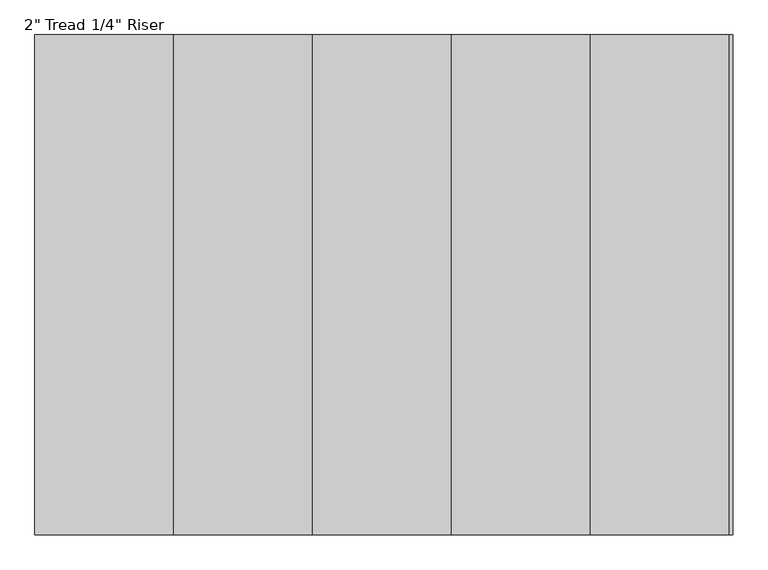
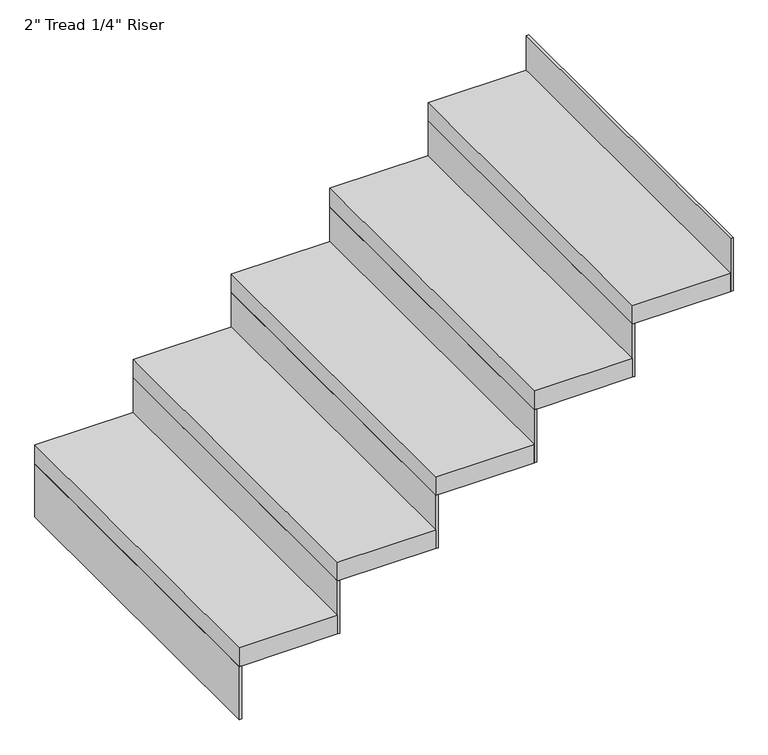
"""IFC4 building model written with IfcOpenShell, lengths in millimetres: stair flight geometry."""

import ifcopenshell
import ifcopenshell.guid

model = None  # the IFC model being written
_history = None  # IfcOwnerHistory: only IFC2X3 demands one
_inside = {}  # id of a spatial element -> (the spatial element, [elements in it])
_under = {}  # id of a project, library or spatial element -> (it, [spatial elements below it])
_declared = {}  # id of a project -> (the project, [libraries it declares])
_typed = {}  # id of a type object -> (the type object, [elements of that type])
_made_of = {}  # id of a material, layer set ... -> (it, [elements and type objects made of it])


def new_model(schema):
    """Start an empty IFC model of exactly this schema.

    Asked for "IFC4X3", IfcOpenShell would pick the latest addendum, in which some entities
    have other attributes; the version numbers below select the first issue.
    IFC2X3 requires an IfcOwnerHistory on every rooted entity: one is made here for all.
    """
    global model, _history
    if schema == "IFC4X3":
        model = ifcopenshell.file(schema_version=(4, 3, 0, 0))
    else:
        model = ifcopenshell.file(schema=schema)
    _inside.clear()
    _under.clear()
    _declared.clear()
    _typed.clear()
    _made_of.clear()
    _history = None
    if model.schema == "IFC2X3":
        org = make("IfcOrganization", Name="unknown")
        user = make(
            "IfcPersonAndOrganization",
            ThePerson=make("IfcPerson", FamilyName="unknown"),
            TheOrganization=org,
        )
        app = make(
            "IfcApplication",
            ApplicationDeveloper=org,
            Version="unknown",
            ApplicationFullName="unknown",
            ApplicationIdentifier="unknown",
        )
        _history = make(
            "IfcOwnerHistory",
            OwningUser=user,
            OwningApplication=app,
            ChangeAction="ADDED",
            CreationDate=0,
        )
    return model


def make(cls, **values):
    """One entity of the class cls with the attributes given. An attribute that is None is left unset."""
    return model.create_entity(
        cls, **{name: value for name, value in values.items() if value is not None}
    )


def rooted(cls, **values):
    """An entity with a GlobalId (a new one), such as an element, a storey or a relation."""
    return make(cls, GlobalId=ifcopenshell.guid.new(), OwnerHistory=_history, **values)


def si_unit(unit_type, name, prefix=None):
    """IfcSIUnit, for example si_unit("LENGTHUNIT", "METRE", prefix="MILLI")."""
    return make("IfcSIUnit", UnitType=unit_type, Prefix=prefix, Name=name)


def assignment(units):
    """IfcUnitAssignment: the units of a project."""
    return None if units is None else make("IfcUnitAssignment", Units=units)


def point(xyz):
    """IfcCartesianPoint."""
    return None if xyz is None else make("IfcCartesianPoint", Coordinates=xyz)


def direction(xyz):
    """IfcDirection."""
    return None if xyz is None else make("IfcDirection", DirectionRatios=xyz)


def frame(location, z_axis=None, x_axis=None):
    """IfcAxis2Placement3D, a coordinate frame: its origin and axes. An axis left out is left unset."""
    return make(
        "IfcAxis2Placement3D",
        Location=point(location),
        Axis=direction(z_axis),
        RefDirection=direction(x_axis),
    )


def origin():
    """The frame at (0, 0, 0) with its axes left unset."""
    return frame((0.0, 0.0, 0.0))


def place(relative_to, where):
    """IfcLocalPlacement: puts the frame where relative to a parent placement (None: the world)."""
    return make(
        "IfcLocalPlacement", PlacementRelTo=relative_to, RelativePlacement=where
    )


def context(
    kind, dimensions, precision=None, world=None, true_north=None, identifier=None
):
    """IfcGeometricRepresentationContext, for example the 3D "Model" context."""
    return make(
        "IfcGeometricRepresentationContext",
        ContextIdentifier=identifier,
        ContextType=kind,
        CoordinateSpaceDimension=dimensions,
        Precision=precision,
        WorldCoordinateSystem=world,
        TrueNorth=true_north,
    )


def project(units=None, contexts=None):
    """IfcProject with its units and contexts."""
    return rooted(
        "IfcProject",
        Name="project",
        RepresentationContexts=contexts,
        UnitsInContext=assignment(units),
    )


def spatial(cls, under=None, at=None, **own):
    """A site, building, storey or space (cls), placed at a placement, below another one or the project."""
    s = rooted(cls, ObjectPlacement=at, **own)
    if under is not None:
        _under.setdefault(under.id(), (under, []))[1].append(s)
    return s


def polyline(points):
    """IfcPolyline through the points."""
    return make("IfcPolyline", Points=[point(p) for p in points])


def outline(outer, holes=None, kind="AREA"):
    """IfcArbitraryClosedProfileDef: a profile drawn as a closed curve; with holes, ...WithVoids."""
    if holes is None:
        return make("IfcArbitraryClosedProfileDef", ProfileType=kind, OuterCurve=outer)
    return make(
        "IfcArbitraryProfileDefWithVoids",
        ProfileType=kind,
        OuterCurve=outer,
        InnerCurves=holes,
    )


def extrude(swept, where, along, depth):
    """IfcExtrudedAreaSolid: the profile swept, set in the frame where, extruded along a direction by depth."""
    return make(
        "IfcExtrudedAreaSolid",
        SweptArea=swept,
        Position=where,
        ExtrudedDirection=direction(along),
        Depth=depth,
    )


def shape(context_of_items, identifier, shape_type, items):
    """IfcShapeRepresentation: the items that make up one representation, for example the "Body"."""
    return make(
        "IfcShapeRepresentation",
        ContextOfItems=context_of_items,
        RepresentationIdentifier=identifier,
        RepresentationType=shape_type,
        Items=items,
    )


def source(mapping_origin, context_of_items, identifier, shape_type, items):
    """IfcRepresentationMap: a shape defined once, which mapped items show again and again."""
    return make(
        "IfcRepresentationMap",
        MappingOrigin=mapping_origin,
        MappedRepresentation=shape(context_of_items, identifier, shape_type, items),
    )


def transform(
    local_origin,
    x_axis=None,
    y_axis=None,
    z_axis=None,
    scale=None,
    scale2=None,
    scale3=None,
    uniform=True,
):
    """IfcCartesianTransformationOperator3D, or its non-uniform kind. x_axis, y_axis, z_axis: its Axis1, 2, 3."""
    if uniform:
        return make(
            "IfcCartesianTransformationOperator3D",
            Axis1=direction(x_axis),
            Axis2=direction(y_axis),
            LocalOrigin=point(local_origin),
            Scale=scale,
            Axis3=direction(z_axis),
        )
    return make(
        "IfcCartesianTransformationOperator3DnonUniform",
        Axis1=direction(x_axis),
        Axis2=direction(y_axis),
        LocalOrigin=point(local_origin),
        Scale=scale,
        Axis3=direction(z_axis),
        Scale2=scale2,
        Scale3=scale3,
    )


def mapped(mapping_source, mapping_target):
    """IfcMappedItem: shows the shape of a source again, moved by a transform."""
    return make(
        "IfcMappedItem", MappingSource=mapping_source, MappingTarget=mapping_target
    )


def made_of(thing, what):
    """Note that an element or type object is made of a material, layer set ...; save() writes the relation."""
    if what is not None:
        _made_of.setdefault(what.id(), (what, []))[1].append(thing)
    return thing


def element(
    cls,
    number,
    at=None,
    inside=None,
    cuts=None,
    type_object=None,
    material=None,
    context=None,
    identifier="Body",
    shape_type=None,
    held_by="IfcProductDefinitionShape",
    body=None,
    shapes=None,
    **own,
):
    """One element of the class cls, such as IfcWall. Its Tag is "e" and its number.

    at: its placement. inside: the storey or other place that contains it. cuts: it is an
    opening in that element (IfcRelVoidsElement). A single representation is given by context,
    identifier, shape_type and body (its items); several are given by shapes. held_by: the class
    of the entity that holds the representations. save() writes the other relations.
    """
    e = rooted(cls, Tag="e%d" % number, ObjectPlacement=at, **own)
    if body is not None:
        shapes = [shape(context, identifier, shape_type, body)]
    if shapes is not None:
        e.Representation = make(held_by, Representations=shapes)
    if inside is not None:
        _inside.setdefault(inside.id(), (inside, []))[1].append(e)
    if cuts is not None:
        rooted(
            "IfcRelVoidsElement", RelatingBuildingElement=cuts, RelatedOpeningElement=e
        )
    if type_object is not None:
        _typed.setdefault(type_object.id(), (type_object, []))[1].append(e)
    return made_of(e, material)


def aggregate(whole, parts):
    """IfcRelAggregates: a whole, such as a stair, and the parts it consists of."""
    return rooted("IfcRelAggregates", RelatingObject=whole, RelatedObjects=parts)


def save(model, path):
    """Write the relations noted so far, then the file.

    IfcRelAggregates (storeys below a building ...), IfcRelContainedInSpatialStructure (elements
    in a storey), IfcRelDefinesByType, IfcRelAssociatesMaterial and IfcRelDeclares: one each for
    every whole, place, type object, material and project.
    """
    for whole, parts in _under.values():
        aggregate(whole, parts)
    for where, things in _inside.values():
        rooted(
            "IfcRelContainedInSpatialStructure",
            RelatedElements=things,
            RelatingStructure=where,
        )
    for kind, things in _typed.values():
        rooted("IfcRelDefinesByType", RelatedObjects=things, RelatingType=kind)
    for what, things in _made_of.values():
        rooted("IfcRelAssociatesMaterial", RelatedObjects=things, RelatingMaterial=what)
    for by, libraries in _declared.values():
        rooted("IfcRelDeclares", RelatingContext=by, RelatedDefinitions=libraries)
    model.write(path)


def stair_flight_977ebf85(model_context):
    return source(origin(), model_context, "Body", "SweptSolid", [
        extrude(outline(polyline([(17539.7535021, 36015.7361774), (17533.4035021, 36015.7361774), (17533.4035021, 36930.1361774), (17539.7535021, 36930.1361774), (17539.7535021, 36015.7361774)])), frame((0.0, 0.0, 2126.3428571), z_axis=(0.0, 0.0, 1.0), x_axis=(1.0, 0.0, 0.0)), (0.0, 0.0, 1.0), 145.1428571),
        extrude(outline(polyline([(17787.4035021, 36930.1361774), (17787.4035021, 36015.7361774), (17533.4035021, 36015.7361774), (17533.4035021, 36930.1361774), (17787.4035021, 36930.1361774)])), frame((0.0, 0.0, 2271.4857143), z_axis=(0.0, 0.0, 1.0), x_axis=(1.0, 0.0, 0.0)), (0.0, 0.0, 1.0), 50.8),
        extrude(outline(polyline([(17793.7535021, 36015.7361774), (17787.4035021, 36015.7361774), (17787.4035021, 36930.1361774), (17793.7535021, 36930.1361774), (17793.7535021, 36015.7361774)])), frame((0.0, 0.0, 2271.4857143), z_axis=(0.0, 0.0, 1.0), x_axis=(1.0, 0.0, 0.0)), (0.0, 0.0, 1.0), 145.1428571),
        extrude(outline(polyline([(18041.4035021, 36930.1361774), (18041.4035021, 36015.7361774), (17787.4035021, 36015.7361774), (17787.4035021, 36930.1361774), (18041.4035021, 36930.1361774)])), frame((0.0, 0.0, 2416.6285714), z_axis=(0.0, 0.0, 1.0), x_axis=(1.0, 0.0, 0.0)), (0.0, 0.0, 1.0), 50.8),
        extrude(outline(polyline([(18047.7535021, 36015.7361774), (18041.4035021, 36015.7361774), (18041.4035021, 36930.1361774), (18047.7535021, 36930.1361774), (18047.7535021, 36015.7361774)])), frame((0.0, 0.0, 2416.6285714), z_axis=(0.0, 0.0, 1.0), x_axis=(1.0, 0.0, 0.0)), (0.0, 0.0, 1.0), 145.1428571),
        extrude(outline(polyline([(18295.4035021, 36930.1361774), (18295.4035021, 36015.7361774), (18041.4035021, 36015.7361774), (18041.4035021, 36930.1361774), (18295.4035021, 36930.1361774)])), frame((0.0, 0.0, 2561.7714286), z_axis=(0.0, 0.0, 1.0), x_axis=(1.0, 0.0, 0.0)), (0.0, 0.0, 1.0), 50.8),
        extrude(outline(polyline([(18301.7535021, 36015.7361774), (18295.4035021, 36015.7361774), (18295.4035021, 36930.1361774), (18301.7535021, 36930.1361774), (18301.7535021, 36015.7361774)])), frame((0.0, 0.0, 2561.7714286), z_axis=(0.0, 0.0, 1.0), x_axis=(1.0, 0.0, 0.0)), (0.0, 0.0, 1.0), 145.1428571),
        extrude(outline(polyline([(18549.4035021, 36930.1361774), (18549.4035021, 36015.7361774), (18295.4035021, 36015.7361774), (18295.4035021, 36930.1361774), (18549.4035021, 36930.1361774)])), frame((0.0, 0.0, 2706.9142857), z_axis=(0.0, 0.0, 1.0), x_axis=(1.0, 0.0, 0.0)), (0.0, 0.0, 1.0), 50.8),
        extrude(outline(polyline([(18555.7535021, 36015.7361774), (18549.4035021, 36015.7361774), (18549.4035021, 36930.1361774), (18555.7535021, 36930.1361774), (18555.7535021, 36015.7361774)])), frame((0.0, 0.0, 2706.9142857), z_axis=(0.0, 0.0, 1.0), x_axis=(1.0, 0.0, 0.0)), (0.0, 0.0, 1.0), 145.1428571),
        extrude(outline(polyline([(18809.7535021, 36015.7361774), (18803.4035021, 36015.7361774), (18803.4035021, 36930.1361774), (18809.7535021, 36930.1361774), (18809.7535021, 36015.7361774)])), frame((0.0, 0.0, 2852.0571429), z_axis=(0.0, 0.0, 1.0), x_axis=(1.0, 0.0, 0.0)), (0.0, 0.0, 1.0), 145.1428571),
        extrude(outline(polyline([(18803.4035021, 36930.1361774), (18803.4035021, 36015.7361774), (18549.4035021, 36015.7361774), (18549.4035021, 36930.1361774), (18803.4035021, 36930.1361774)])), frame((0.0, 0.0, 2852.0571429), z_axis=(0.0, 0.0, 1.0), x_axis=(1.0, 0.0, 0.0)), (0.0, 0.0, 1.0), 50.8),
    ])


if __name__ == "__main__":
    model = new_model("IFC4")
    model_context = context("Model", 3, world=origin())
    ifc_project = project(units=[si_unit("LENGTHUNIT", "METRE", prefix="MILLI")], contexts=[model_context])
    site = spatial("IfcSite", under=ifc_project)
    building = spatial("IfcBuilding", under=site)
    placement = place(None, origin())
    stair_flight_shape = stair_flight_977ebf85(model_context)
    element("IfcStairFlight", 1, ObjectType="2\" Tread 1/4\" Riser", at=placement, inside=building, context=model_context, shape_type="MappedRepresentation", body=[
        mapped(stair_flight_shape, transform((0.0, 0.0, 0.0), x_axis=(1.0, 0.0, 0.0), y_axis=(0.0, 1.0, 0.0), z_axis=(0.0, 0.0, 1.0))),
    ])
    save(model, "model.ifc")
